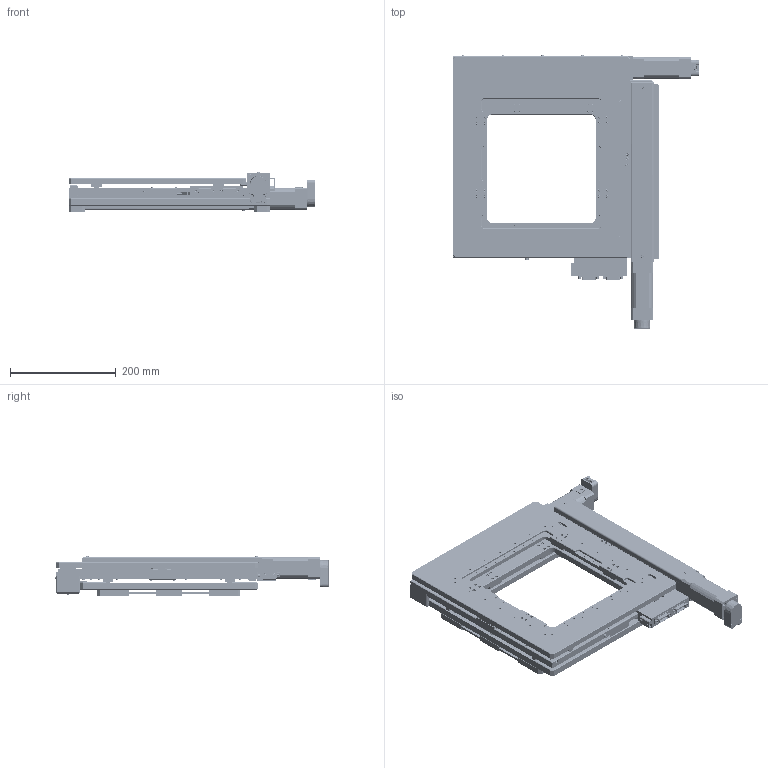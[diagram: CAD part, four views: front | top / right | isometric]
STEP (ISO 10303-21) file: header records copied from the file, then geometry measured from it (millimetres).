
FILE_DESCRIPTION(/* description */ (''),/* implementation_level */ '2;1');
FILE_NAME(/* name */ 'C:\Users\dsgn39.CENTRAS\Desktop\Internetui\8MTF-200-B43-MEn4-LEn1\8MTF-200-B43-MEn4-LEn1.stp',/* time_stamp */ '2019-07-19T09:33:28+03:00',/* author */ ('dsgn39'),/* organization */ (''),/* preprocessor_version */ 'ST-DEVELOPER v15.2',/* originating_system */ 'Autodesk Inventor 2014',/* authorisation */ '');
FILE_SCHEMA (('AUTOMOTIVE_DESIGN { 1 0 10303 214 3 1 1 }'));
Products named in the file (2): Part368; Assembly2
Bounding box: 465.89 x 515.54 x 75.65 mm (x, y, z)
Volume: 4908584 mm3; surface area: 830589.7 mm2
Topology: 1 solids, 112 shells, 4591 faces, 11502 edges, 7366 vertices
Faces by surface type: plane 2884, cylinder 1072, cone 286, torus 240, bspline 76, sphere 33
Full cylindrical faces by diameter (mm): 2 x26, 2.5 x32, 3 x56, 3.048 x4, 3.242 x46, 3.302 x4, 3.4 x41, 3.5 x5, 3.8 x26, 4 x36, 4.3 x1, 4.5 x18, 4.953 x4, 5.5 x50, 6 x46, 6.5 x8, 7 x21, 8 x18, 9 x1
Entity records: 135274 total; most frequent: CARTESIAN_POINT 30862, DIRECTION 21114, ORIENTED_EDGE 20802, EDGE_CURVE 10397, AXIS2_PLACEMENT_3D 7203, VERTEX_POINT 7069, LINE 6708, VECTOR 6708
